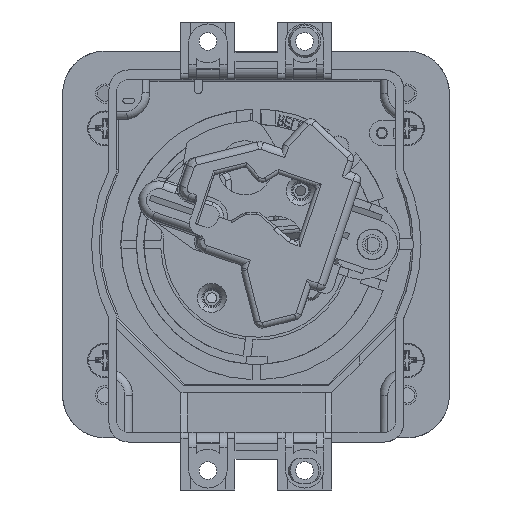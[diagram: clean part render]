
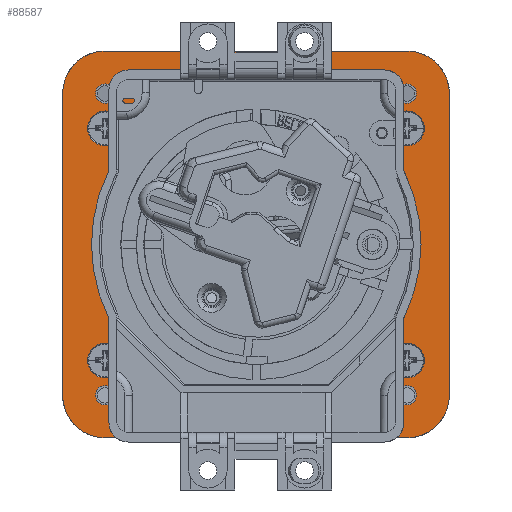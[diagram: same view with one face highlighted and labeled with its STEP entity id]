
A CAD part, front view. The second image highlights one B-rep face of the part: STEP entity #88587.
In plain terms, the highlighted planar face has unit normal (0, -1, 0) as drawn and (0, 1, 0) by its records, which use the part's own axes.
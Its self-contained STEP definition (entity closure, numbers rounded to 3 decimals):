
#85125=CARTESIAN_POINT('',(0.,2.5,0.));
#85126=DIRECTION('',(0.,1.,0.));
#85127=DIRECTION('',(0.,0.,1.));
#85128=AXIS2_PLACEMENT_3D('',#85125,#85126,#85127);
#85130=CARTESIAN_POINT('',(0.,2.5,0.));
#85131=DIRECTION('',(0.,1.,0.));
#85132=DIRECTION('',(0.,0.,-1.));
#85133=AXIS2_PLACEMENT_3D('',#85130,#85131,#85132);
#85135=CARTESIAN_POINT('',(39.,2.5,39.));
#85136=DIRECTION('',(0.,-1.,0.));
#85137=DIRECTION('',(0.,0.,-1.));
#85138=AXIS2_PLACEMENT_3D('',#85135,#85136,#85137);
#85140=CARTESIAN_POINT('',(39.,2.5,39.));
#85141=DIRECTION('',(0.,-1.,0.));
#85142=DIRECTION('',(0.,0.,1.));
#85143=AXIS2_PLACEMENT_3D('',#85140,#85141,#85142);
#85145=CARTESIAN_POINT('',(39.,2.5,-39.));
#85146=DIRECTION('',(0.,-1.,0.));
#85147=DIRECTION('',(0.,0.,-1.));
#85148=AXIS2_PLACEMENT_3D('',#85145,#85146,#85147);
#85150=CARTESIAN_POINT('',(39.,2.5,-39.));
#85151=DIRECTION('',(0.,-1.,0.));
#85152=DIRECTION('',(0.,0.,1.));
#85153=AXIS2_PLACEMENT_3D('',#85150,#85151,#85152);
#85155=CARTESIAN_POINT('',(-39.,2.5,39.));
#85156=DIRECTION('',(0.,-1.,0.));
#85157=DIRECTION('',(0.,0.,-1.));
#85158=AXIS2_PLACEMENT_3D('',#85155,#85156,#85157);
#85160=CARTESIAN_POINT('',(-39.,2.5,39.));
#85161=DIRECTION('',(0.,-1.,0.));
#85162=DIRECTION('',(0.,0.,1.));
#85163=AXIS2_PLACEMENT_3D('',#85160,#85161,#85162);
#85165=CARTESIAN_POINT('',(-39.,2.5,-39.));
#85166=DIRECTION('',(0.,-1.,0.));
#85167=DIRECTION('',(0.,0.,-1.));
#85168=AXIS2_PLACEMENT_3D('',#85165,#85166,#85167);
#85170=CARTESIAN_POINT('',(-39.,2.5,-39.));
#85171=DIRECTION('',(0.,-1.,0.));
#85172=DIRECTION('',(0.,0.,1.));
#85173=AXIS2_PLACEMENT_3D('',#85170,#85171,#85172);
#85175=DIRECTION('',(0.,0.,-1.));
#85176=VECTOR('',#85175,78.);
#85177=CARTESIAN_POINT('',(50.,2.5,39.));
#85178=LINE('',#85177,#85176);
#85179=DIRECTION('',(1.,0.,0.));
#85180=VECTOR('',#85179,78.);
#85181=CARTESIAN_POINT('',(-39.,2.5,50.));
#85182=LINE('',#85181,#85180);
#85183=DIRECTION('',(0.,0.,1.));
#85184=VECTOR('',#85183,78.);
#85185=CARTESIAN_POINT('',(-50.,2.5,-39.));
#85186=LINE('',#85185,#85184);
#85187=DIRECTION('',(-1.,0.,0.));
#85188=VECTOR('',#85187,78.);
#85189=CARTESIAN_POINT('',(39.,2.5,-50.));
#85190=LINE('',#85189,#85188);
#87120=CARTESIAN_POINT('',(30.,2.5,39.));
#87121=DIRECTION('',(0.,-1.,0.));
#87122=DIRECTION('',(0.,0.,-1.));
#87123=AXIS2_PLACEMENT_3D('',#87120,#87121,#87122);
#87138=CARTESIAN_POINT('',(30.,2.5,39.));
#87139=DIRECTION('',(0.,-1.,0.));
#87140=DIRECTION('',(0.,0.,1.));
#87141=AXIS2_PLACEMENT_3D('',#87138,#87139,#87140);
#87156=CARTESIAN_POINT('',(30.,2.5,-39.));
#87157=DIRECTION('',(0.,-1.,0.));
#87158=DIRECTION('',(0.,0.,-1.));
#87159=AXIS2_PLACEMENT_3D('',#87156,#87157,#87158);
#87174=CARTESIAN_POINT('',(30.,2.5,-39.));
#87175=DIRECTION('',(0.,-1.,0.));
#87176=DIRECTION('',(0.,0.,1.));
#87177=AXIS2_PLACEMENT_3D('',#87174,#87175,#87176);
#87192=CARTESIAN_POINT('',(-30.,2.5,39.));
#87193=DIRECTION('',(0.,-1.,0.));
#87194=DIRECTION('',(0.,0.,-1.));
#87195=AXIS2_PLACEMENT_3D('',#87192,#87193,#87194);
#87210=CARTESIAN_POINT('',(-30.,2.5,39.));
#87211=DIRECTION('',(0.,-1.,0.));
#87212=DIRECTION('',(0.,0.,1.));
#87213=AXIS2_PLACEMENT_3D('',#87210,#87211,#87212);
#87228=CARTESIAN_POINT('',(-30.,2.5,-39.));
#87229=DIRECTION('',(0.,-1.,0.));
#87230=DIRECTION('',(0.,0.,-1.));
#87231=AXIS2_PLACEMENT_3D('',#87228,#87229,#87230);
#87246=CARTESIAN_POINT('',(-30.,2.5,-39.));
#87247=DIRECTION('',(0.,-1.,0.));
#87248=DIRECTION('',(0.,0.,1.));
#87249=AXIS2_PLACEMENT_3D('',#87246,#87247,#87248);
#87277=CARTESIAN_POINT('',(39.,2.5,-39.));
#87278=DIRECTION('',(0.,1.,0.));
#87279=DIRECTION('',(1.,0.,0.));
#87280=AXIS2_PLACEMENT_3D('',#87277,#87278,#87279);
#87299=CARTESIAN_POINT('',(-39.,2.5,-39.));
#87300=DIRECTION('',(0.,1.,0.));
#87301=DIRECTION('',(0.,0.,-1.));
#87302=AXIS2_PLACEMENT_3D('',#87299,#87300,#87301);
#87321=CARTESIAN_POINT('',(-39.,2.5,39.));
#87322=DIRECTION('',(0.,1.,0.));
#87323=DIRECTION('',(-1.,0.,0.));
#87324=AXIS2_PLACEMENT_3D('',#87321,#87322,#87323);
#87343=CARTESIAN_POINT('',(39.,2.5,39.));
#87344=DIRECTION('',(0.,1.,0.));
#87345=DIRECTION('',(0.,0.,1.));
#87346=AXIS2_PLACEMENT_3D('',#87343,#87344,#87345);
#87681=CARTESIAN_POINT('',(0.,2.5,41.));
#87682=CARTESIAN_POINT('',(0.,2.5,-41.));
#87683=VERTEX_POINT('',#87681);
#87684=VERTEX_POINT('',#87682);
#87908=CARTESIAN_POINT('',(39.,2.5,36.5));
#87909=CARTESIAN_POINT('',(39.,2.5,41.5));
#87910=VERTEX_POINT('',#87908);
#87911=VERTEX_POINT('',#87909);
#87916=CARTESIAN_POINT('',(39.,2.5,-41.5));
#87917=CARTESIAN_POINT('',(39.,2.5,-36.5));
#87918=VERTEX_POINT('',#87916);
#87919=VERTEX_POINT('',#87917);
#87924=CARTESIAN_POINT('',(-39.,2.5,36.5));
#87925=CARTESIAN_POINT('',(-39.,2.5,41.5));
#87926=VERTEX_POINT('',#87924);
#87927=VERTEX_POINT('',#87925);
#87932=CARTESIAN_POINT('',(-39.,2.5,-41.5));
#87933=CARTESIAN_POINT('',(-39.,2.5,-36.5));
#87934=VERTEX_POINT('',#87932);
#87935=VERTEX_POINT('',#87933);
#88230=CARTESIAN_POINT('',(39.,2.5,-50.));
#88232=VERTEX_POINT('',#88230);
#88236=CARTESIAN_POINT('',(50.,2.5,-39.));
#88237=VERTEX_POINT('',#88236);
#88238=CARTESIAN_POINT('',(-50.,2.5,-39.));
#88240=VERTEX_POINT('',#88238);
#88244=CARTESIAN_POINT('',(-39.,2.5,-50.));
#88245=VERTEX_POINT('',#88244);
#88246=CARTESIAN_POINT('',(-39.,2.5,50.));
#88248=VERTEX_POINT('',#88246);
#88252=CARTESIAN_POINT('',(-50.,2.5,39.));
#88253=VERTEX_POINT('',#88252);
#88254=CARTESIAN_POINT('',(50.,2.5,39.));
#88256=VERTEX_POINT('',#88254);
#88260=CARTESIAN_POINT('',(39.,2.5,50.));
#88261=VERTEX_POINT('',#88260);
#88278=CARTESIAN_POINT('',(30.,2.5,43.51));
#88279=CARTESIAN_POINT('',(30.,2.5,34.49));
#88280=VERTEX_POINT('',#88278);
#88281=VERTEX_POINT('',#88279);
#88286=CARTESIAN_POINT('',(30.,2.5,-34.49));
#88287=CARTESIAN_POINT('',(30.,2.5,-43.51));
#88288=VERTEX_POINT('',#88286);
#88289=VERTEX_POINT('',#88287);
#88294=CARTESIAN_POINT('',(-30.,2.5,43.51));
#88295=CARTESIAN_POINT('',(-30.,2.5,34.49));
#88296=VERTEX_POINT('',#88294);
#88297=VERTEX_POINT('',#88295);
#88302=CARTESIAN_POINT('',(-30.,2.5,-34.49));
#88303=CARTESIAN_POINT('',(-30.,2.5,-43.51));
#88304=VERTEX_POINT('',#88302);
#88305=VERTEX_POINT('',#88303);
#88512=CARTESIAN_POINT('',(0.,2.5,0.));
#88513=DIRECTION('',(0.,1.,0.));
#88514=DIRECTION('',(0.,0.,1.));
#88515=AXIS2_PLACEMENT_3D('',#88512,#88513,#88514);
#88516=PLANE('',#88515);
#88518=ORIENTED_EDGE('',*,*,#88517,.F.);
#88520=ORIENTED_EDGE('',*,*,#88519,.F.);
#88522=ORIENTED_EDGE('',*,*,#88521,.F.);
#88524=ORIENTED_EDGE('',*,*,#88523,.F.);
#88526=ORIENTED_EDGE('',*,*,#88525,.F.);
#88528=ORIENTED_EDGE('',*,*,#88527,.F.);
#88530=ORIENTED_EDGE('',*,*,#88529,.F.);
#88532=ORIENTED_EDGE('',*,*,#88531,.F.);
#88533=EDGE_LOOP('',(#88518,#88520,#88522,#88524,#88526,#88528,#88530,#88532));
#88534=FACE_OUTER_BOUND('',#88533,.F.);
#88535=ORIENTED_EDGE('',*,*,#88492,.F.);
#88536=ORIENTED_EDGE('',*,*,#88506,.F.);
#88537=EDGE_LOOP('',(#88535,#88536));
#88538=FACE_BOUND('',#88537,.F.);
#88540=ORIENTED_EDGE('',*,*,#88539,.F.);
#88542=ORIENTED_EDGE('',*,*,#88541,.F.);
#88543=EDGE_LOOP('',(#88540,#88542));
#88544=FACE_BOUND('',#88543,.F.);
#88546=ORIENTED_EDGE('',*,*,#88545,.F.);
#88548=ORIENTED_EDGE('',*,*,#88547,.F.);
#88549=EDGE_LOOP('',(#88546,#88548));
#88550=FACE_BOUND('',#88549,.F.);
#88552=ORIENTED_EDGE('',*,*,#88551,.F.);
#88554=ORIENTED_EDGE('',*,*,#88553,.F.);
#88555=EDGE_LOOP('',(#88552,#88554));
#88556=FACE_BOUND('',#88555,.F.);
#88558=ORIENTED_EDGE('',*,*,#88557,.F.);
#88560=ORIENTED_EDGE('',*,*,#88559,.F.);
#88561=EDGE_LOOP('',(#88558,#88560));
#88562=FACE_BOUND('',#88561,.F.);
#88564=ORIENTED_EDGE('',*,*,#88563,.F.);
#88566=ORIENTED_EDGE('',*,*,#88565,.F.);
#88567=EDGE_LOOP('',(#88564,#88566));
#88568=FACE_BOUND('',#88567,.F.);
#88570=ORIENTED_EDGE('',*,*,#88569,.F.);
#88572=ORIENTED_EDGE('',*,*,#88571,.F.);
#88573=EDGE_LOOP('',(#88570,#88572));
#88574=FACE_BOUND('',#88573,.F.);
#88576=ORIENTED_EDGE('',*,*,#88575,.F.);
#88578=ORIENTED_EDGE('',*,*,#88577,.F.);
#88579=EDGE_LOOP('',(#88576,#88578));
#88580=FACE_BOUND('',#88579,.F.);
#88582=ORIENTED_EDGE('',*,*,#88581,.T.);
#88584=ORIENTED_EDGE('',*,*,#88583,.T.);
#88585=EDGE_LOOP('',(#88582,#88584));
#88586=FACE_BOUND('',#88585,.F.);
#88587=ADVANCED_FACE('',(#88534,#88538,#88544,#88550,#88556,#88562,#88568,
#88574,#88580,#88586),#88516,.T.);
#85129=CIRCLE('',#85128,41.);
#85134=CIRCLE('',#85133,41.);
#85139=CIRCLE('',#85138,2.5);
#85144=CIRCLE('',#85143,2.5);
#85149=CIRCLE('',#85148,2.5);
#85154=CIRCLE('',#85153,2.5);
#85159=CIRCLE('',#85158,2.5);
#85164=CIRCLE('',#85163,2.5);
#85169=CIRCLE('',#85168,2.5);
#85174=CIRCLE('',#85173,2.5);
#87124=CIRCLE('',#87123,4.51);
#87142=CIRCLE('',#87141,4.51);
#87160=CIRCLE('',#87159,4.51);
#87178=CIRCLE('',#87177,4.51);
#87196=CIRCLE('',#87195,4.51);
#87214=CIRCLE('',#87213,4.51);
#87232=CIRCLE('',#87231,4.51);
#87250=CIRCLE('',#87249,4.51);
#87281=CIRCLE('',#87280,11.);
#87303=CIRCLE('',#87302,11.);
#87325=CIRCLE('',#87324,11.);
#87347=CIRCLE('',#87346,11.);
#88492=EDGE_CURVE('',#87910,#87911,#85139,.T.);
#88506=EDGE_CURVE('',#87911,#87910,#85144,.T.);
#88517=EDGE_CURVE('',#88237,#88232,#87281,.T.);
#88519=EDGE_CURVE('',#88256,#88237,#85178,.T.);
#88521=EDGE_CURVE('',#88261,#88256,#87347,.T.);
#88523=EDGE_CURVE('',#88248,#88261,#85182,.T.);
#88525=EDGE_CURVE('',#88253,#88248,#87325,.T.);
#88527=EDGE_CURVE('',#88240,#88253,#85186,.T.);
#88529=EDGE_CURVE('',#88245,#88240,#87303,.T.);
#88531=EDGE_CURVE('',#88232,#88245,#85190,.T.);
#88539=EDGE_CURVE('',#87918,#87919,#85149,.T.);
#88541=EDGE_CURVE('',#87919,#87918,#85154,.T.);
#88545=EDGE_CURVE('',#87926,#87927,#85159,.T.);
#88547=EDGE_CURVE('',#87927,#87926,#85164,.T.);
#88551=EDGE_CURVE('',#87934,#87935,#85169,.T.);
#88553=EDGE_CURVE('',#87935,#87934,#85174,.T.);
#88557=EDGE_CURVE('',#88281,#88280,#87124,.T.);
#88559=EDGE_CURVE('',#88280,#88281,#87142,.T.);
#88563=EDGE_CURVE('',#88289,#88288,#87160,.T.);
#88565=EDGE_CURVE('',#88288,#88289,#87178,.T.);
#88569=EDGE_CURVE('',#88297,#88296,#87196,.T.);
#88571=EDGE_CURVE('',#88296,#88297,#87214,.T.);
#88575=EDGE_CURVE('',#88305,#88304,#87232,.T.);
#88577=EDGE_CURVE('',#88304,#88305,#87250,.T.);
#88581=EDGE_CURVE('',#87683,#87684,#85129,.T.);
#88583=EDGE_CURVE('',#87684,#87683,#85134,.T.);
